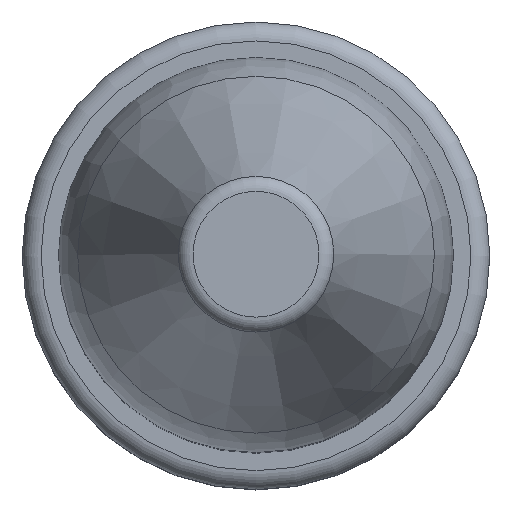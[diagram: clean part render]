
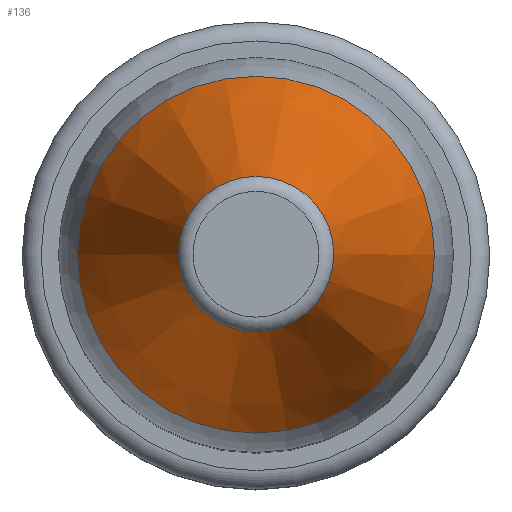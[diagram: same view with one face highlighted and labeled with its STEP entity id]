
A CAD part, top view. The second image highlights one B-rep face of the part: STEP entity #136.
In plain terms, the highlighted conical face has half-angle 20 degrees and reference radius 7.172 mm.
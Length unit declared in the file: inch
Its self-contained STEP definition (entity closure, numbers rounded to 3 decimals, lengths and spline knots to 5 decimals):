
#3 = CARTESIAN_POINT ( 'NONE',  ( 0., 0., 1.29601 ) ) ;
#28 = CARTESIAN_POINT ( 'NONE',  ( 0., 0., 1.29601 ) ) ;
#33 = AXIS2_PLACEMENT_3D ( 'NONE', #131, #35, #196 ) ;
#35 = DIRECTION ( 'NONE',  ( 0., 0., 1. ) ) ;
#45 = CIRCLE ( 'NONE', #93, 0.28235 ) ;
#55 = CARTESIAN_POINT ( 'NONE',  ( 0.28235, 0., 1.29601 ) ) ;
#76 = EDGE_LOOP ( 'NONE', ( #204 ) ) ;
#93 = AXIS2_PLACEMENT_3D ( 'NONE', #3, #148, #130 ) ;
#96 = VERTEX_POINT ( 'NONE', #150 ) ;
#115 = CONICAL_SURFACE ( 'NONE', #218, 0.28235, 0.349 ) ;
#130 = DIRECTION ( 'NONE',  ( 1., 0., 0. ) ) ;
#131 = CARTESIAN_POINT ( 'NONE',  ( 0., 0., 1.73355 ) ) ;
#136 = ADVANCED_FACE ( 'NONE', ( #147, #159 ), #115, .T. ) ;
#147 = FACE_BOUND ( 'NONE', #154, .T. ) ;
#148 = DIRECTION ( 'NONE',  ( 0., 0., 1. ) ) ;
#150 = CARTESIAN_POINT ( 'NONE',  ( 0.12309, 0., 1.73355 ) ) ;
#154 = EDGE_LOOP ( 'NONE', ( #169 ) ) ;
#159 = FACE_OUTER_BOUND ( 'NONE', #76, .T. ) ;
#169 = ORIENTED_EDGE ( 'NONE', *, *, #215, .F. ) ;
#185 = CIRCLE ( 'NONE', #33, 0.12309 ) ;
#194 = VERTEX_POINT ( 'NONE', #55 ) ;
#196 = DIRECTION ( 'NONE',  ( 1., 0., 0. ) ) ;
#197 = EDGE_CURVE ( 'NONE', #194, #194, #45, .T. ) ;
#204 = ORIENTED_EDGE ( 'NONE', *, *, #197, .T. ) ;
#210 = DIRECTION ( 'NONE',  ( 0., 0., -1. ) ) ;
#212 = DIRECTION ( 'NONE',  ( -1., 0., 0. ) ) ;
#215 = EDGE_CURVE ( 'NONE', #96, #96, #185, .T. ) ;
#218 = AXIS2_PLACEMENT_3D ( 'NONE', #28, #210, #212 ) ;
